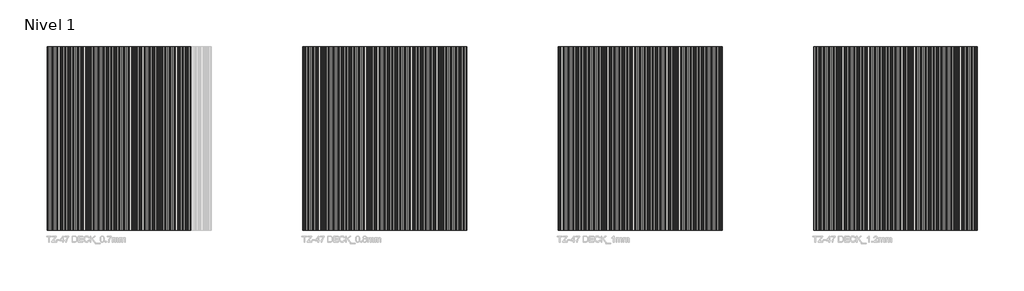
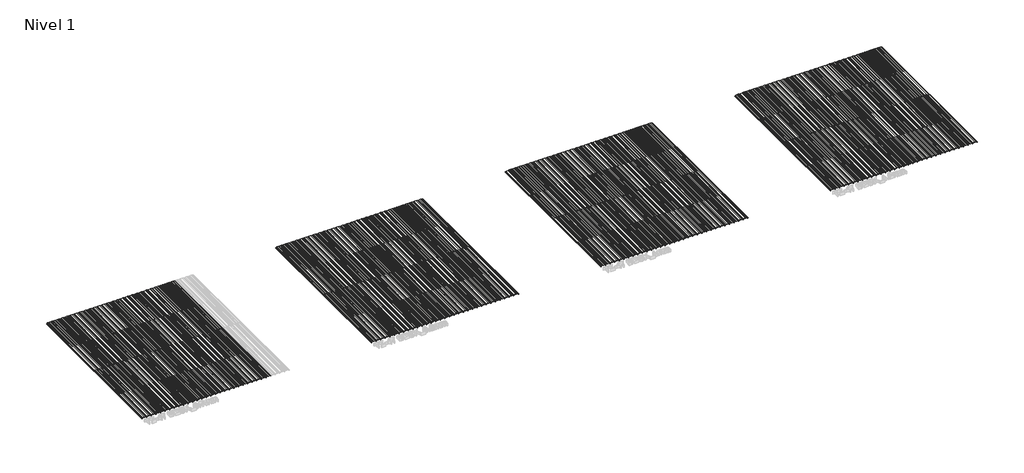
# One storey, part 1 of 4: 37 roofs.
"""IFC4 building model written with IfcOpenShell, lengths in millimetres."""

from ifc_helpers import new_model, si_unit, point, frame, frame_2d, origin, place, context, project, spatial, polyline, circle_curve, trimmed, segment, composite_curve, outline, extrude, transform, mapped, element, save
from components import panel_tz_47_deck_tz_47_deck_0_7mm_e5fd2b05, panel_tz_47_deck_tz_47_deck_1_2mm_7df1c9f2, panel_tz_47_deck_tz_47_deck_1mm_757c216b

model = new_model("IFC4")

# Units and contexts
model_context = context("Model", 3, world=origin())
ifc_project = project(units=[si_unit("LENGTHUNIT", "METRE", prefix="MILLI")], contexts=[model_context])

# Site, building, storey
site = spatial("IfcSite", under=ifc_project)
building = spatial("IfcBuilding", under=site)
storey = spatial("IfcBuildingStorey", under=building, Name="Nivel 1", Elevation=0.0)

# Roofs
placement = place(None, origin())
panel_tz_47_deck_tz_47_deck_0_7mm_shape = panel_tz_47_deck_tz_47_deck_0_7mm_e5fd2b05(model_context)
element("IfcRoof", 1, ObjectType="Panel_TZ-47 DECK : TZ-47 DECK_0.7mm", at=placement, inside=storey, context=model_context, shape_type="MappedRepresentation", body=[
    mapped(panel_tz_47_deck_tz_47_deck_0_7mm_shape, transform((-11662.6659852, -3212.7855956, 0.0), x_axis=(1.0, 0.0, 0.0), y_axis=(0.0, 0.0, -1.0), z_axis=(0.0, 1.0, 0.0))),
])
element("IfcRoof", 2, ObjectType="Panel_TZ-47 DECK : TZ-47 DECK_0.7mm", at=placement, inside=storey, context=model_context, shape_type="MappedRepresentation", body=[
    mapped(panel_tz_47_deck_tz_47_deck_0_7mm_shape, transform((-10662.6659851, -3212.7855956, 0.0), x_axis=(1.0, 0.0, 0.0), y_axis=(0.0, 0.0, -1.0), z_axis=(0.0, 1.0, 0.0))),
])
element("IfcRoof", 3, ObjectType="Panel_TZ-47 DECK : TZ-47 DECK_0.7mm", at=placement, inside=storey, context=model_context, shape_type="MappedRepresentation", body=[
    mapped(panel_tz_47_deck_tz_47_deck_0_7mm_shape, transform((-9662.6659851, -3212.7855956, 0.0), x_axis=(1.0, 0.0, 0.0), y_axis=(0.0, 0.0, -1.0), z_axis=(0.0, 1.0, 0.0))),
])
element("IfcRoof", 4, ObjectType="Panel_TZ-47 DECK : TZ-47 DECK_0.7mm", at=placement, inside=storey, context=model_context, shape_type="MappedRepresentation", body=[
    mapped(panel_tz_47_deck_tz_47_deck_0_7mm_shape, transform((-8662.6659851, -3212.7855956, 0.0), x_axis=(1.0, 0.0, 0.0), y_axis=(0.0, 0.0, -1.0), z_axis=(0.0, 1.0, 0.0))),
])
element("IfcRoof", 5, ObjectType="Panel_TZ-47 DECK : TZ-47 DECK_0.7mm", at=placement, inside=storey, context=model_context, shape_type="MappedRepresentation", body=[
    mapped(panel_tz_47_deck_tz_47_deck_0_7mm_shape, transform((-7662.6659851, -3212.7855956, 0.0), x_axis=(1.0, 0.0, 0.0), y_axis=(0.0, 0.0, -1.0), z_axis=(0.0, 1.0, 0.0))),
])
element("IfcRoof", 6, ObjectType="Panel_TZ-47 DECK : TZ-47 DECK_0.7mm", at=placement, inside=storey, context=model_context, shape_type="MappedRepresentation", body=[
    mapped(panel_tz_47_deck_tz_47_deck_0_7mm_shape, transform((-6662.6659851, -3212.7855956, 0.0), x_axis=(1.0, 0.0, 0.0), y_axis=(0.0, 0.0, -1.0), z_axis=(0.0, 1.0, 0.0))),
])
element("IfcRoof", 7, ObjectType="Panel_TZ-47 DECK : TZ-47 DECK_0.8mm", at=placement, inside=storey, context=model_context, shape_type="SweptSolid", body=[
    extrude(outline(composite_curve([segment(trimmed(circle_curve(frame_2d((44.0, -5199.9741819)), 2.5), [point((46.5, -5199.9741819))], [point((44.9953639, -5197.6808763))], True, "CARTESIAN"), True, "CONTINUOUS"), segment(polyline([(44.9953639, -5197.6808763), (19.8835868, -5186.781606)]), True, "CONTINUOUS"), segment(trimmed(circle_curve(frame_2d((21.0780235, -5184.0296393)), 3.0), [point((19.8835868, -5186.781606))], [point((18.397439, -5185.3766607))], False, "CARTESIAN"), True, "CONTINUOUS"), segment(polyline([(18.397439, -5185.3766607), (14.779315, -5178.1765618)]), True, "CONTINUOUS"), segment(trimmed(circle_curve(frame_2d((12.9922586, -5179.074576)), 2.0), [point((14.779315, -5178.1765618))], [point((13.6209063, -5177.1759444))], True, "CARTESIAN"), True, "CONTINUOUS"), segment(polyline([(13.6209063, -5177.1759444), (2.3998665, -5173.4605945)]), True, "CONTINUOUS"), segment(trimmed(circle_curve(frame_2d((3.5, -5170.1379891)), 3.5), [point((2.3998665, -5173.4605945))], [point((0.0, -5170.1379891))], False, "CARTESIAN"), True, "CONTINUOUS"), segment(polyline([(0.0, -5170.1379891), (0.0, -5155.193981)]), True, "CONTINUOUS"), segment(trimmed(circle_curve(frame_2d((3.5, -5155.193981)), 3.5), [point((0.0, -5155.193981))], [point((2.3998665, -5151.8713757))], False, "CARTESIAN"), True, "CONTINUOUS"), segment(polyline([(2.3998665, -5151.8713757), (7.5945265, -5150.1513943)]), True, "CONTINUOUS"), segment(trimmed(circle_curve(frame_2d((8.2231742, -5152.0500259)), 2.0), [point((7.5945265, -5150.1513943))], [point((9.1194865, -5150.2621153))], False, "CARTESIAN"), True, "CONTINUOUS"), segment(trimmed(circle_curve(frame_2d((9.5655913, -5149.359869)), 1.0065078), [point((9.1194865, -5150.2621153))], [point((9.8819608, -5150.3153628))], True, "CARTESIAN"), True, "CONTINUOUS"), segment(polyline([(9.8819608, -5150.3153628), (13.4343573, -5149.1391441), (13.6858163, -5149.8985968), (10.1334198, -5151.0748154)]), True, "CONTINUOUS"), segment(trimmed(circle_curve(frame_2d((9.5655913, -5149.359869)), 1.8065078), [point((10.1334198, -5151.0748154))], [point((8.7624057, -5150.9780047))], False, "CARTESIAN"), True, "CONTINUOUS"), segment(trimmed(circle_curve(frame_2d((8.2231742, -5152.0500259)), 1.2), [point((8.7624057, -5150.9780047))], [point((7.8459856, -5150.9108469))], True, "CARTESIAN"), True, "CONTINUOUS"), segment(polyline([(7.8459856, -5150.9108469), (2.6513256, -5152.6308283)]), True, "CONTINUOUS"), segment(trimmed(circle_curve(frame_2d((3.5, -5155.193981)), 2.7), [point((2.6513256, -5152.6308283))], [point((0.8, -5155.193981))], True, "CARTESIAN"), True, "CONTINUOUS"), segment(polyline([(0.8, -5155.193981), (0.8, -5170.1379891)]), True, "CONTINUOUS"), segment(trimmed(circle_curve(frame_2d((3.5, -5170.1379891)), 2.7), [point((0.8, -5170.1379891))], [point((2.6513256, -5172.7011418))], True, "CARTESIAN"), True, "CONTINUOUS"), segment(polyline([(2.6513256, -5172.7011418), (13.8723654, -5176.4164917)]), True, "CONTINUOUS"), segment(trimmed(circle_curve(frame_2d((12.9922586, -5179.074576)), 2.8), [point((13.8723654, -5176.4164917))], [point((15.4941375, -5177.8173561))], False, "CARTESIAN"), True, "CONTINUOUS"), segment(polyline([(15.4941375, -5177.8173561), (19.1122615, -5185.017455)]), True, "CONTINUOUS"), segment(trimmed(circle_curve(frame_2d((21.0780235, -5184.0296393)), 2.2), [point((19.1122615, -5185.017455))], [point((20.2021032, -5186.0477482))], True, "CARTESIAN"), True, "CONTINUOUS"), segment(polyline([(20.2021032, -5186.0477482), (45.3138804, -5196.9470185)]), True, "CONTINUOUS"), segment(trimmed(circle_curve(frame_2d((44.0, -5199.9741819)), 3.3), [point((45.3138804, -5196.9470185))], [point((47.3, -5199.9741819))], False, "CARTESIAN"), True, "CONTINUOUS"), segment(polyline([(47.3, -5199.9741819), (47.3, -5267.6956909), (43.3922323, -5287.2345296)]), True, "CONTINUOUS"), segment(trimmed(circle_curve(frame_2d((45.5495098, -5287.6659851)), 2.2), [point((43.3922323, -5287.2345296))], [point((43.3922323, -5288.0974406))], True, "CARTESIAN"), True, "CONTINUOUS"), segment(polyline([(43.3922323, -5288.0974406), (47.3, -5307.6362792), (47.3, -5375.3577882)]), True, "CONTINUOUS"), segment(trimmed(circle_curve(frame_2d((44.0, -5375.3577882)), 3.3), [point((47.3, -5375.3577882))], [point((45.3138804, -5378.3849516))], False, "CARTESIAN"), True, "CONTINUOUS"), segment(polyline([(45.3138804, -5378.3849516), (20.2021032, -5389.2842219)]), True, "CONTINUOUS"), segment(trimmed(circle_curve(frame_2d((21.0780235, -5391.3023308)), 2.2), [point((20.2021032, -5389.2842219))], [point((19.1122615, -5390.3145151))], True, "CARTESIAN"), True, "CONTINUOUS"), segment(polyline([(19.1122615, -5390.3145151), (15.4941375, -5397.5146141)]), True, "CONTINUOUS"), segment(trimmed(circle_curve(frame_2d((12.9922586, -5396.2573941)), 2.8), [point((15.4941375, -5397.5146141))], [point((13.8723654, -5398.9154784))], False, "CARTESIAN"), True, "CONTINUOUS"), segment(polyline([(13.8723654, -5398.9154784), (2.6513256, -5402.6308283)]), True, "CONTINUOUS"), segment(trimmed(circle_curve(frame_2d((3.5, -5405.193981)), 2.7), [point((2.6513256, -5402.6308283))], [point((0.8, -5405.193981))], True, "CARTESIAN"), True, "CONTINUOUS"), segment(polyline([(0.8, -5405.193981), (0.8, -5420.1379891)]), True, "CONTINUOUS"), segment(trimmed(circle_curve(frame_2d((3.5, -5420.1379891)), 2.7), [point((0.8, -5420.1379891))], [point((2.6513256, -5422.7011418))], True, "CARTESIAN"), True, "CONTINUOUS"), segment(polyline([(2.6513256, -5422.7011418), (13.8723654, -5426.4164917)]), True, "CONTINUOUS"), segment(trimmed(circle_curve(frame_2d((12.9922586, -5429.074576)), 2.8), [point((13.8723654, -5426.4164917))], [point((15.4941375, -5427.8173561))], False, "CARTESIAN"), True, "CONTINUOUS"), segment(polyline([(15.4941375, -5427.8173561), (19.1122615, -5435.017455)]), True, "CONTINUOUS"), segment(trimmed(circle_curve(frame_2d((21.0780235, -5434.0296393)), 2.2), [point((19.1122615, -5435.017455))], [point((20.2021032, -5436.0477482))], True, "CARTESIAN"), True, "CONTINUOUS"), segment(polyline([(20.2021032, -5436.0477482), (45.3138804, -5446.9470185)]), True, "CONTINUOUS"), segment(trimmed(circle_curve(frame_2d((44.0, -5449.9741819)), 3.3), [point((45.3138804, -5446.9470185))], [point((47.3, -5449.9741819))], False, "CARTESIAN"), True, "CONTINUOUS"), segment(polyline([(47.3, -5449.9741819), (47.3, -5517.6956909), (43.3922323, -5537.2345296)]), True, "CONTINUOUS"), segment(trimmed(circle_curve(frame_2d((45.5495098, -5537.6659851)), 2.2), [point((43.3922323, -5537.2345296))], [point((43.3922323, -5538.0974406))], True, "CARTESIAN"), True, "CONTINUOUS"), segment(polyline([(43.3922323, -5538.0974406), (47.3, -5557.6362792), (47.3, -5625.3577882)]), True, "CONTINUOUS"), segment(trimmed(circle_curve(frame_2d((44.0, -5625.3577882)), 3.3), [point((47.3, -5625.3577882))], [point((45.3138804, -5628.3849516))], False, "CARTESIAN"), True, "CONTINUOUS"), segment(polyline([(45.3138804, -5628.3849516), (20.2021032, -5639.2842219)]), True, "CONTINUOUS"), segment(trimmed(circle_curve(frame_2d((21.0780235, -5641.3023308)), 2.2), [point((20.2021032, -5639.2842219))], [point((19.1122615, -5640.3145151))], True, "CARTESIAN"), True, "CONTINUOUS"), segment(polyline([(19.1122615, -5640.3145151), (15.4941375, -5647.5146141)]), True, "CONTINUOUS"), segment(trimmed(circle_curve(frame_2d((12.9922586, -5646.2573941)), 2.8), [point((15.4941375, -5647.5146141))], [point((13.8723654, -5648.9154784))], False, "CARTESIAN"), True, "CONTINUOUS"), segment(polyline([(13.8723654, -5648.9154784), (2.6513256, -5652.6308283)]), True, "CONTINUOUS"), segment(trimmed(circle_curve(frame_2d((3.5, -5655.193981)), 2.7), [point((2.6513256, -5652.6308283))], [point((0.8, -5655.193981))], True, "CARTESIAN"), True, "CONTINUOUS"), segment(polyline([(0.8, -5655.193981), (0.8, -5670.1379891)]), True, "CONTINUOUS"), segment(trimmed(circle_curve(frame_2d((3.5, -5670.1379891)), 2.7), [point((0.8, -5670.1379891))], [point((2.6513256, -5672.7011418))], True, "CARTESIAN"), True, "CONTINUOUS"), segment(polyline([(2.6513256, -5672.7011418), (13.8723654, -5676.4164917)]), True, "CONTINUOUS"), segment(trimmed(circle_curve(frame_2d((12.9922586, -5679.074576)), 2.8), [point((13.8723654, -5676.4164917))], [point((15.4941375, -5677.8173561))], False, "CARTESIAN"), True, "CONTINUOUS"), segment(polyline([(15.4941375, -5677.8173561), (19.1122615, -5685.017455)]), True, "CONTINUOUS"), segment(trimmed(circle_curve(frame_2d((21.0780235, -5684.0296393)), 2.2), [point((19.1122615, -5685.017455))], [point((20.2021032, -5686.0477482))], True, "CARTESIAN"), True, "CONTINUOUS"), segment(polyline([(20.2021032, -5686.0477482), (45.3138804, -5696.9470185)]), True, "CONTINUOUS"), segment(trimmed(circle_curve(frame_2d((44.0, -5699.9741819)), 3.3), [point((45.3138804, -5696.9470185))], [point((47.3, -5699.9741819))], False, "CARTESIAN"), True, "CONTINUOUS"), segment(polyline([(47.3, -5699.9741819), (47.3, -5767.6956909), (43.3922323, -5787.2345296)]), True, "CONTINUOUS"), segment(trimmed(circle_curve(frame_2d((45.5495098, -5787.6659851)), 2.2), [point((43.3922323, -5787.2345296))], [point((43.3922323, -5788.0974406))], True, "CARTESIAN"), True, "CONTINUOUS"), segment(polyline([(43.3922323, -5788.0974406), (47.3, -5807.6362792), (47.3, -5875.3577882)]), True, "CONTINUOUS"), segment(trimmed(circle_curve(frame_2d((44.0, -5875.3577882)), 3.3), [point((47.3, -5875.3577882))], [point((45.3138804, -5878.3849516))], False, "CARTESIAN"), True, "CONTINUOUS"), segment(polyline([(45.3138804, -5878.3849516), (20.2021032, -5889.2842219)]), True, "CONTINUOUS"), segment(trimmed(circle_curve(frame_2d((21.0780235, -5891.3023308)), 2.2), [point((20.2021032, -5889.2842219))], [point((19.1122615, -5890.3145151))], True, "CARTESIAN"), True, "CONTINUOUS"), segment(polyline([(19.1122615, -5890.3145151), (15.4941375, -5897.5146141)]), True, "CONTINUOUS"), segment(trimmed(circle_curve(frame_2d((12.9922586, -5896.2573941)), 2.8), [point((15.4941375, -5897.5146141))], [point((13.8723654, -5898.9154784))], False, "CARTESIAN"), True, "CONTINUOUS"), segment(polyline([(13.8723654, -5898.9154784), (2.6513256, -5902.6308283)]), True, "CONTINUOUS"), segment(trimmed(circle_curve(frame_2d((3.5, -5905.193981)), 2.7), [point((2.6513256, -5902.6308283))], [point((0.8, -5905.193981))], True, "CARTESIAN"), True, "CONTINUOUS"), segment(polyline([(0.8, -5905.193981), (0.8, -5920.1379891)]), True, "CONTINUOUS"), segment(trimmed(circle_curve(frame_2d((3.5, -5920.1379891)), 2.7), [point((0.8, -5920.1379891))], [point((2.6513256, -5922.7011418))], True, "CARTESIAN"), True, "CONTINUOUS"), segment(polyline([(2.6513256, -5922.7011418), (13.8723654, -5926.4164917)]), True, "CONTINUOUS"), segment(trimmed(circle_curve(frame_2d((12.9922586, -5929.074576)), 2.8), [point((13.8723654, -5926.4164917))], [point((15.4941375, -5927.8173561))], False, "CARTESIAN"), True, "CONTINUOUS"), segment(polyline([(15.4941375, -5927.8173561), (19.1122615, -5935.017455)]), True, "CONTINUOUS"), segment(trimmed(circle_curve(frame_2d((21.0780235, -5934.0296393)), 2.2), [point((19.1122615, -5935.017455))], [point((20.2021032, -5936.0477482))], True, "CARTESIAN"), True, "CONTINUOUS"), segment(polyline([(20.2021032, -5936.0477482), (45.3138804, -5946.9470185)]), True, "CONTINUOUS"), segment(trimmed(circle_curve(frame_2d((44.0, -5949.9741819)), 3.3), [point((45.3138804, -5946.9470185))], [point((47.3, -5949.9741819))], False, "CARTESIAN"), True, "CONTINUOUS"), segment(polyline([(47.3, -5949.9741819), (47.3, -6017.6956909), (43.3922323, -6037.2345296)]), True, "CONTINUOUS"), segment(trimmed(circle_curve(frame_2d((45.5495098, -6037.6659851)), 2.2), [point((43.3922323, -6037.2345296))], [point((43.3922323, -6038.0974406))], True, "CARTESIAN"), True, "CONTINUOUS"), segment(polyline([(43.3922323, -6038.0974406), (47.3, -6057.6362792), (47.3, -6125.3577882)]), True, "CONTINUOUS"), segment(trimmed(circle_curve(frame_2d((44.0, -6125.3577882)), 3.3), [point((47.3, -6125.3577882))], [point((45.3138804, -6128.3849516))], False, "CARTESIAN"), True, "CONTINUOUS"), segment(polyline([(45.3138804, -6128.3849516), (20.2021032, -6139.2842219)]), True, "CONTINUOUS"), segment(trimmed(circle_curve(frame_2d((21.0780235, -6141.3023308)), 2.2), [point((20.2021032, -6139.2842219))], [point((19.1122615, -6140.3145151))], True, "CARTESIAN"), True, "CONTINUOUS"), segment(polyline([(19.1122615, -6140.3145151), (14.5899257, -6149.3140038)]), True, "CONTINUOUS"), segment(trimmed(circle_curve(frame_2d((12.0880468, -6148.0567838)), 2.8), [point((14.5899257, -6149.3140038))], [point((12.9681535, -6150.7148681))], False, "CARTESIAN"), True, "CONTINUOUS"), segment(polyline([(12.9681535, -6150.7148681), (4.1513256, -6153.6341698)]), True, "CONTINUOUS"), segment(trimmed(circle_curve(frame_2d((5.0, -6156.1973225)), 2.7), [point((4.1513256, -6153.6341698))], [point((2.3, -6156.1973225))], True, "CARTESIAN"), True, "CONTINUOUS"), segment(polyline([(2.3, -6156.1973225), (2.3, -6168.9091576)]), True, "CONTINUOUS"), segment(trimmed(circle_curve(frame_2d((4.0, -6168.9091576)), 1.7), [point((2.3, -6168.9091576))], [point((3.4656495, -6170.5229945))], True, "CARTESIAN"), True, "CONTINUOUS"), segment(polyline([(3.4656495, -6170.5229945), (5.3642811, -6171.1516422), (5.112822, -6171.9110948), (3.2141904, -6171.2824471)]), True, "CONTINUOUS"), segment(trimmed(circle_curve(frame_2d((4.0, -6168.9091576)), 2.5), [point((3.2141904, -6171.2824471))], [point((1.5, -6168.9091576))], False, "CARTESIAN"), True, "CONTINUOUS"), segment(polyline([(1.5, -6168.9091576), (1.5, -6156.1973225)]), True, "CONTINUOUS"), segment(trimmed(circle_curve(frame_2d((5.0, -6156.1973225)), 3.5), [point((1.5, -6156.1973225))], [point((3.8998665, -6152.8747171))], False, "CARTESIAN"), True, "CONTINUOUS"), segment(polyline([(3.8998665, -6152.8747171), (12.7166945, -6149.9554154)]), True, "CONTINUOUS"), segment(trimmed(circle_curve(frame_2d((12.0880468, -6148.0567838)), 2.0), [point((12.7166945, -6149.9554154))], [point((13.8751031, -6148.9547981))], True, "CARTESIAN"), True, "CONTINUOUS"), segment(polyline([(13.8751031, -6148.9547981), (18.397439, -6139.9553094)]), True, "CONTINUOUS"), segment(trimmed(circle_curve(frame_2d((21.0780235, -6141.3023308)), 3.0), [point((18.397439, -6139.9553094))], [point((19.8835868, -6138.5503641))], False, "CARTESIAN"), True, "CONTINUOUS"), segment(polyline([(19.8835868, -6138.5503641), (44.9953639, -6127.6510938)]), True, "CONTINUOUS"), segment(trimmed(circle_curve(frame_2d((44.0, -6125.3577882)), 2.5), [point((44.9953639, -6127.6510938))], [point((46.5, -6125.3577882))], True, "CARTESIAN"), True, "CONTINUOUS"), segment(polyline([(46.5, -6125.3577882), (46.5, -6057.7154948), (42.6077677, -6038.2543335)]), True, "CONTINUOUS"), segment(trimmed(circle_curve(frame_2d((45.5495098, -6037.6659851)), 3.0), [point((42.6077677, -6038.2543335))], [point((42.6077677, -6037.0776367))], False, "CARTESIAN"), True, "CONTINUOUS"), segment(polyline([(42.6077677, -6037.0776367), (46.5, -6017.6164753), (46.5, -5949.9741819)]), True, "CONTINUOUS"), segment(trimmed(circle_curve(frame_2d((44.0, -5949.9741819)), 2.5), [point((46.5, -5949.9741819))], [point((44.9953639, -5947.6808763))], True, "CARTESIAN"), True, "CONTINUOUS"), segment(polyline([(44.9953639, -5947.6808763), (19.8835868, -5936.781606)]), True, "CONTINUOUS"), segment(trimmed(circle_curve(frame_2d((21.0780235, -5934.0296393)), 3.0), [point((19.8835868, -5936.781606))], [point((18.397439, -5935.3766607))], False, "CARTESIAN"), True, "CONTINUOUS"), segment(polyline([(18.397439, -5935.3766607), (14.779315, -5928.1765618)]), True, "CONTINUOUS"), segment(trimmed(circle_curve(frame_2d((12.9922586, -5929.074576)), 2.0), [point((14.779315, -5928.1765618))], [point((13.6209063, -5927.1759444))], True, "CARTESIAN"), True, "CONTINUOUS"), segment(polyline([(13.6209063, -5927.1759444), (2.3998665, -5923.4605945)]), True, "CONTINUOUS"), segment(trimmed(circle_curve(frame_2d((3.5, -5920.1379891)), 3.5), [point((2.3998665, -5923.4605945))], [point((0.0, -5920.1379891))], False, "CARTESIAN"), True, "CONTINUOUS"), segment(polyline([(0.0, -5920.1379891), (0.0, -5905.193981)]), True, "CONTINUOUS"), segment(trimmed(circle_curve(frame_2d((3.5, -5905.193981)), 3.5), [point((0.0, -5905.193981))], [point((2.3998665, -5901.8713757))], False, "CARTESIAN"), True, "CONTINUOUS"), segment(polyline([(2.3998665, -5901.8713757), (13.6209063, -5898.1560258)]), True, "CONTINUOUS"), segment(trimmed(circle_curve(frame_2d((12.9922586, -5896.2573941)), 2.0), [point((13.6209063, -5898.1560258))], [point((14.779315, -5897.1554084))], True, "CARTESIAN"), True, "CONTINUOUS"), segment(polyline([(14.779315, -5897.1554084), (18.397439, -5889.9553094)]), True, "CONTINUOUS"), segment(trimmed(circle_curve(frame_2d((21.0780235, -5891.3023308)), 3.0), [point((18.397439, -5889.9553094))], [point((19.8835868, -5888.5503641))], False, "CARTESIAN"), True, "CONTINUOUS"), segment(polyline([(19.8835868, -5888.5503641), (44.9953639, -5877.6510938)]), True, "CONTINUOUS"), segment(trimmed(circle_curve(frame_2d((44.0, -5875.3577882)), 2.5), [point((44.9953639, -5877.6510938))], [point((46.5, -5875.3577882))], True, "CARTESIAN"), True, "CONTINUOUS"), segment(polyline([(46.5, -5875.3577882), (46.5, -5807.7154948), (42.6077677, -5788.2543335)]), True, "CONTINUOUS"), segment(trimmed(circle_curve(frame_2d((45.5495098, -5787.6659851)), 3.0), [point((42.6077677, -5788.2543335))], [point((42.6077677, -5787.0776367))], False, "CARTESIAN"), True, "CONTINUOUS"), segment(polyline([(42.6077677, -5787.0776367), (46.5, -5767.6164753), (46.5, -5699.9741819)]), True, "CONTINUOUS"), segment(trimmed(circle_curve(frame_2d((44.0, -5699.9741819)), 2.5), [point((46.5, -5699.9741819))], [point((44.9953639, -5697.6808763))], True, "CARTESIAN"), True, "CONTINUOUS"), segment(polyline([(44.9953639, -5697.6808763), (19.8835868, -5686.781606)]), True, "CONTINUOUS"), segment(trimmed(circle_curve(frame_2d((21.0780235, -5684.0296393)), 3.0), [point((19.8835868, -5686.781606))], [point((18.397439, -5685.3766607))], False, "CARTESIAN"), True, "CONTINUOUS"), segment(polyline([(18.397439, -5685.3766607), (14.779315, -5678.1765618)]), True, "CONTINUOUS"), segment(trimmed(circle_curve(frame_2d((12.9922586, -5679.074576)), 2.0), [point((14.779315, -5678.1765618))], [point((13.6209063, -5677.1759444))], True, "CARTESIAN"), True, "CONTINUOUS"), segment(polyline([(13.6209063, -5677.1759444), (2.3998665, -5673.4605945)]), True, "CONTINUOUS"), segment(trimmed(circle_curve(frame_2d((3.5, -5670.1379891)), 3.5), [point((2.3998665, -5673.4605945))], [point((0.0, -5670.1379891))], False, "CARTESIAN"), True, "CONTINUOUS"), segment(polyline([(0.0, -5670.1379891), (0.0, -5655.193981)]), True, "CONTINUOUS"), segment(trimmed(circle_curve(frame_2d((3.5, -5655.193981)), 3.5), [point((0.0, -5655.193981))], [point((2.3998665, -5651.8713757))], False, "CARTESIAN"), True, "CONTINUOUS"), segment(polyline([(2.3998665, -5651.8713757), (13.6209063, -5648.1560258)]), True, "CONTINUOUS"), segment(trimmed(circle_curve(frame_2d((12.9922586, -5646.2573941)), 2.0), [point((13.6209063, -5648.1560258))], [point((14.779315, -5647.1554084))], True, "CARTESIAN"), True, "CONTINUOUS"), segment(polyline([(14.779315, -5647.1554084), (18.397439, -5639.9553094)]), True, "CONTINUOUS"), segment(trimmed(circle_curve(frame_2d((21.0780235, -5641.3023308)), 3.0), [point((18.397439, -5639.9553094))], [point((19.8835868, -5638.5503641))], False, "CARTESIAN"), True, "CONTINUOUS"), segment(polyline([(19.8835868, -5638.5503641), (44.9953639, -5627.6510938)]), True, "CONTINUOUS"), segment(trimmed(circle_curve(frame_2d((44.0, -5625.3577882)), 2.5), [point((44.9953639, -5627.6510938))], [point((46.5, -5625.3577882))], True, "CARTESIAN"), True, "CONTINUOUS"), segment(polyline([(46.5, -5625.3577882), (46.5, -5557.7154948), (42.6077677, -5538.2543335)]), True, "CONTINUOUS"), segment(trimmed(circle_curve(frame_2d((45.5495098, -5537.6659851)), 3.0), [point((42.6077677, -5538.2543335))], [point((42.6077677, -5537.0776367))], False, "CARTESIAN"), True, "CONTINUOUS"), segment(polyline([(42.6077677, -5537.0776367), (46.5, -5517.6164753), (46.5, -5449.9741819)]), True, "CONTINUOUS"), segment(trimmed(circle_curve(frame_2d((44.0, -5449.9741819)), 2.5), [point((46.5, -5449.9741819))], [point((44.9953639, -5447.6808763))], True, "CARTESIAN"), True, "CONTINUOUS"), segment(polyline([(44.9953639, -5447.6808763), (19.8835868, -5436.781606)]), True, "CONTINUOUS"), segment(trimmed(circle_curve(frame_2d((21.0780235, -5434.0296393)), 3.0), [point((19.8835868, -5436.781606))], [point((18.397439, -5435.3766607))], False, "CARTESIAN"), True, "CONTINUOUS"), segment(polyline([(18.397439, -5435.3766607), (14.779315, -5428.1765618)]), True, "CONTINUOUS"), segment(trimmed(circle_curve(frame_2d((12.9922586, -5429.074576)), 2.0), [point((14.779315, -5428.1765618))], [point((13.6209063, -5427.1759444))], True, "CARTESIAN"), True, "CONTINUOUS"), segment(polyline([(13.6209063, -5427.1759444), (2.3998665, -5423.4605945)]), True, "CONTINUOUS"), segment(trimmed(circle_curve(frame_2d((3.5, -5420.1379891)), 3.5), [point((2.3998665, -5423.4605945))], [point((0.0, -5420.1379891))], False, "CARTESIAN"), True, "CONTINUOUS"), segment(polyline([(0.0, -5420.1379891), (0.0, -5405.193981)]), True, "CONTINUOUS"), segment(trimmed(circle_curve(frame_2d((3.5, -5405.193981)), 3.5), [point((0.0, -5405.193981))], [point((2.3998665, -5401.8713757))], False, "CARTESIAN"), True, "CONTINUOUS"), segment(polyline([(2.3998665, -5401.8713757), (13.6209063, -5398.1560258)]), True, "CONTINUOUS"), segment(trimmed(circle_curve(frame_2d((12.9922586, -5396.2573941)), 2.0), [point((13.6209063, -5398.1560258))], [point((14.779315, -5397.1554084))], True, "CARTESIAN"), True, "CONTINUOUS"), segment(polyline([(14.779315, -5397.1554084), (18.397439, -5389.9553094)]), True, "CONTINUOUS"), segment(trimmed(circle_curve(frame_2d((21.0780235, -5391.3023308)), 3.0), [point((18.397439, -5389.9553094))], [point((19.8835868, -5388.5503641))], False, "CARTESIAN"), True, "CONTINUOUS"), segment(polyline([(19.8835868, -5388.5503641), (44.9953639, -5377.6510938)]), True, "CONTINUOUS"), segment(trimmed(circle_curve(frame_2d((44.0, -5375.3577882)), 2.5), [point((44.9953639, -5377.6510938))], [point((46.5, -5375.3577882))], True, "CARTESIAN"), True, "CONTINUOUS"), segment(polyline([(46.5, -5375.3577882), (46.5, -5307.7154948), (42.6077677, -5288.2543335)]), True, "CONTINUOUS"), segment(trimmed(circle_curve(frame_2d((45.5495098, -5287.6659851)), 3.0), [point((42.6077677, -5288.2543335))], [point((42.6077677, -5287.0776367))], False, "CARTESIAN"), True, "CONTINUOUS"), segment(polyline([(42.6077677, -5287.0776367), (46.5, -5267.6164753), (46.5, -5199.9741819)]), True, "CONTINUOUS")], self_intersect=False)), frame((0.0, -3212.7855956, 0.0), z_axis=(0.0, 1.0, 0.0), x_axis=(0.0, 0.0, 1.0)), (0.0, 0.0, 1.0), 9000.0),
])
element("IfcRoof", 8, ObjectType="Panel_TZ-47 DECK : TZ-47 DECK_0.8mm", at=placement, inside=storey, context=model_context, shape_type="MappedRepresentation", body=[
    mapped(panel_tz_47_deck_tz_47_deck_0_7mm_shape, transform((-11662.6659852, -3212.7855956, 0.0), x_axis=(1.0, 0.0, 0.0), y_axis=(0.0, 0.0, -1.0), z_axis=(0.0, 1.0, 0.0))),
])
element("IfcRoof", 9, ObjectType="Panel_TZ-47 DECK : TZ-47 DECK_0.8mm", at=placement, inside=storey, context=model_context, shape_type="MappedRepresentation", body=[
    mapped(panel_tz_47_deck_tz_47_deck_0_7mm_shape, transform((-10662.6659851, -3212.7855956, 0.0), x_axis=(1.0, 0.0, 0.0), y_axis=(0.0, 0.0, -1.0), z_axis=(0.0, 1.0, 0.0))),
])
element("IfcRoof", 10, ObjectType="Panel_TZ-47 DECK : TZ-47 DECK_0.8mm", at=placement, inside=storey, context=model_context, shape_type="MappedRepresentation", body=[
    mapped(panel_tz_47_deck_tz_47_deck_0_7mm_shape, transform((-9662.6659851, -3212.7855956, 0.0), x_axis=(1.0, 0.0, 0.0), y_axis=(0.0, 0.0, -1.0), z_axis=(0.0, 1.0, 0.0))),
])
element("IfcRoof", 11, ObjectType="Panel_TZ-47 DECK : TZ-47 DECK_0.8mm", at=placement, inside=storey, context=model_context, shape_type="MappedRepresentation", body=[
    mapped(panel_tz_47_deck_tz_47_deck_0_7mm_shape, transform((-8662.6659851, -3212.7855956, 0.0), x_axis=(1.0, 0.0, 0.0), y_axis=(0.0, 0.0, -1.0), z_axis=(0.0, 1.0, 0.0))),
])
element("IfcRoof", 12, ObjectType="Panel_TZ-47 DECK : TZ-47 DECK_0.8mm", at=placement, inside=storey, context=model_context, shape_type="MappedRepresentation", body=[
    mapped(panel_tz_47_deck_tz_47_deck_0_7mm_shape, transform((-7662.6659851, -3212.7855956, 0.0), x_axis=(1.0, 0.0, 0.0), y_axis=(0.0, 0.0, -1.0), z_axis=(0.0, 1.0, 0.0))),
])
element("IfcRoof", 13, ObjectType="Panel_TZ-47 DECK : TZ-47 DECK_0.8mm", at=placement, inside=storey, context=model_context, shape_type="MappedRepresentation", body=[
    mapped(panel_tz_47_deck_tz_47_deck_0_7mm_shape, transform((-6662.6659851, -3212.7855956, 0.0), x_axis=(1.0, 0.0, 0.0), y_axis=(0.0, 0.0, -1.0), z_axis=(0.0, 1.0, 0.0))),
])
element("IfcRoof", 14, ObjectType="Panel_TZ-47 DECK : TZ-47 DECK_0.8mm", at=placement, inside=storey, context=model_context, shape_type="MappedRepresentation", body=[
    mapped(panel_tz_47_deck_tz_47_deck_0_7mm_shape, transform((837.3340148, -3212.7855956, 0.0), x_axis=(1.0, 0.0, 0.0), y_axis=(0.0, 0.0, -1.0), z_axis=(0.0, 1.0, 0.0))),
])
element("IfcRoof", 15, ObjectType="Panel_TZ-47 DECK : TZ-47 DECK_0.8mm", at=placement, inside=storey, context=model_context, shape_type="MappedRepresentation", body=[
    mapped(panel_tz_47_deck_tz_47_deck_0_7mm_shape, transform((1837.3340149, -3212.7855956, 0.0), x_axis=(1.0, 0.0, 0.0), y_axis=(0.0, 0.0, -1.0), z_axis=(0.0, 1.0, 0.0))),
])
element("IfcRoof", 16, ObjectType="Panel_TZ-47 DECK : TZ-47 DECK_0.8mm", at=placement, inside=storey, context=model_context, shape_type="MappedRepresentation", body=[
    mapped(panel_tz_47_deck_tz_47_deck_0_7mm_shape, transform((2837.3340149, -3212.7855956, 0.0), x_axis=(1.0, 0.0, 0.0), y_axis=(0.0, 0.0, -1.0), z_axis=(0.0, 1.0, 0.0))),
])
element("IfcRoof", 17, ObjectType="Panel_TZ-47 DECK : TZ-47 DECK_0.8mm", at=placement, inside=storey, context=model_context, shape_type="MappedRepresentation", body=[
    mapped(panel_tz_47_deck_tz_47_deck_0_7mm_shape, transform((3837.3340149, -3212.7855956, 0.0), x_axis=(1.0, 0.0, 0.0), y_axis=(0.0, 0.0, -1.0), z_axis=(0.0, 1.0, 0.0))),
])
element("IfcRoof", 18, ObjectType="Panel_TZ-47 DECK : TZ-47 DECK_0.8mm", at=placement, inside=storey, context=model_context, shape_type="MappedRepresentation", body=[
    mapped(panel_tz_47_deck_tz_47_deck_0_7mm_shape, transform((4837.3340149, -3212.7855956, 0.0), x_axis=(1.0, 0.0, 0.0), y_axis=(0.0, 0.0, -1.0), z_axis=(0.0, 1.0, 0.0))),
])
element("IfcRoof", 19, ObjectType="Panel_TZ-47 DECK : TZ-47 DECK_0.8mm", at=placement, inside=storey, context=model_context, shape_type="MappedRepresentation", body=[
    mapped(panel_tz_47_deck_tz_47_deck_0_7mm_shape, transform((5837.3340149, -3212.7855956, 0.0), x_axis=(1.0, 0.0, 0.0), y_axis=(0.0, 0.0, -1.0), z_axis=(0.0, 1.0, 0.0))),
])
element("IfcRoof", 20, ObjectType="Panel_TZ-47 DECK : TZ-47 DECK_0.8mm", at=placement, inside=storey, context=model_context, shape_type="MappedRepresentation", body=[
    mapped(panel_tz_47_deck_tz_47_deck_0_7mm_shape, transform((6837.3340149, -3212.7855956, 0.0), x_axis=(1.0, 0.0, 0.0), y_axis=(0.0, 0.0, -1.0), z_axis=(0.0, 1.0, 0.0))),
])
element("IfcRoof", 21, ObjectType="Panel_TZ-47 DECK : TZ-47 DECK_0.8mm", at=placement, inside=storey, context=model_context, shape_type="MappedRepresentation", body=[
    mapped(panel_tz_47_deck_tz_47_deck_0_7mm_shape, transform((7837.3340148, -3212.7855956, 0.0), x_axis=(1.0, 0.0, 0.0), y_axis=(0.0, 0.0, -1.0), z_axis=(0.0, 1.0, 0.0))),
])
panel_tz_47_deck_tz_47_deck_1_2mm_shape = panel_tz_47_deck_tz_47_deck_1_2mm_7df1c9f2(model_context)
element("IfcRoof", 22, ObjectType="Panel_TZ-47 DECK : TZ-47 DECK_1.2mm", at=placement, inside=storey, context=model_context, shape_type="MappedRepresentation", body=[
    mapped(panel_tz_47_deck_tz_47_deck_1_2mm_shape, transform((25837.3340148, -3212.7855956, 0.0), x_axis=(1.0, 0.0, 0.0), y_axis=(0.0, 0.0, -1.0), z_axis=(0.0, 1.0, 0.0))),
])
element("IfcRoof", 23, ObjectType="Panel_TZ-47 DECK : TZ-47 DECK_1.2mm", at=placement, inside=storey, context=model_context, shape_type="MappedRepresentation", body=[
    mapped(panel_tz_47_deck_tz_47_deck_1_2mm_shape, transform((26837.3340149, -3212.7855956, 0.0), x_axis=(1.0, 0.0, 0.0), y_axis=(0.0, 0.0, -1.0), z_axis=(0.0, 1.0, 0.0))),
])
element("IfcRoof", 24, ObjectType="Panel_TZ-47 DECK : TZ-47 DECK_1.2mm", at=placement, inside=storey, context=model_context, shape_type="MappedRepresentation", body=[
    mapped(panel_tz_47_deck_tz_47_deck_1_2mm_shape, transform((27837.3340149, -3212.7855956, 0.0), x_axis=(1.0, 0.0, 0.0), y_axis=(0.0, 0.0, -1.0), z_axis=(0.0, 1.0, 0.0))),
])
element("IfcRoof", 25, ObjectType="Panel_TZ-47 DECK : TZ-47 DECK_1.2mm", at=placement, inside=storey, context=model_context, shape_type="MappedRepresentation", body=[
    mapped(panel_tz_47_deck_tz_47_deck_1_2mm_shape, transform((28837.3340149, -3212.7855956, 0.0), x_axis=(1.0, 0.0, 0.0), y_axis=(0.0, 0.0, -1.0), z_axis=(0.0, 1.0, 0.0))),
])
element("IfcRoof", 26, ObjectType="Panel_TZ-47 DECK : TZ-47 DECK_1.2mm", at=placement, inside=storey, context=model_context, shape_type="MappedRepresentation", body=[
    mapped(panel_tz_47_deck_tz_47_deck_1_2mm_shape, transform((29837.3340149, -3212.7855956, 0.0), x_axis=(1.0, 0.0, 0.0), y_axis=(0.0, 0.0, -1.0), z_axis=(0.0, 1.0, 0.0))),
])
element("IfcRoof", 27, ObjectType="Panel_TZ-47 DECK : TZ-47 DECK_1.2mm", at=placement, inside=storey, context=model_context, shape_type="MappedRepresentation", body=[
    mapped(panel_tz_47_deck_tz_47_deck_1_2mm_shape, transform((30837.3340149, -3212.7855956, 0.0), x_axis=(1.0, 0.0, 0.0), y_axis=(0.0, 0.0, -1.0), z_axis=(0.0, 1.0, 0.0))),
])
element("IfcRoof", 28, ObjectType="Panel_TZ-47 DECK : TZ-47 DECK_1.2mm", at=placement, inside=storey, context=model_context, shape_type="MappedRepresentation", body=[
    mapped(panel_tz_47_deck_tz_47_deck_1_2mm_shape, transform((31837.3340149, -3212.7855956, 0.0), x_axis=(1.0, 0.0, 0.0), y_axis=(0.0, 0.0, -1.0), z_axis=(0.0, 1.0, 0.0))),
])
element("IfcRoof", 29, ObjectType="Panel_TZ-47 DECK : TZ-47 DECK_1.2mm", at=placement, inside=storey, context=model_context, shape_type="MappedRepresentation", body=[
    mapped(panel_tz_47_deck_tz_47_deck_1_2mm_shape, transform((32837.3340148, -3212.7855956, 0.0), x_axis=(1.0, 0.0, 0.0), y_axis=(0.0, 0.0, -1.0), z_axis=(0.0, 1.0, 0.0))),
])
panel_tz_47_deck_tz_47_deck_1mm_shape = panel_tz_47_deck_tz_47_deck_1mm_757c216b(model_context)
element("IfcRoof", 30, ObjectType="Panel_TZ-47 DECK : TZ-47 DECK_1mm", at=placement, inside=storey, context=model_context, shape_type="MappedRepresentation", body=[
    mapped(panel_tz_47_deck_tz_47_deck_1mm_shape, transform((13337.3340148, -3212.7855956, 0.0), x_axis=(1.0, 0.0, 0.0), y_axis=(0.0, 0.0, -1.0), z_axis=(0.0, 1.0, 0.0))),
])
element("IfcRoof", 31, ObjectType="Panel_TZ-47 DECK : TZ-47 DECK_1mm", at=placement, inside=storey, context=model_context, shape_type="MappedRepresentation", body=[
    mapped(panel_tz_47_deck_tz_47_deck_1mm_shape, transform((14337.3340149, -3212.7855956, 0.0), x_axis=(1.0, 0.0, 0.0), y_axis=(0.0, 0.0, -1.0), z_axis=(0.0, 1.0, 0.0))),
])
element("IfcRoof", 32, ObjectType="Panel_TZ-47 DECK : TZ-47 DECK_1mm", at=placement, inside=storey, context=model_context, shape_type="MappedRepresentation", body=[
    mapped(panel_tz_47_deck_tz_47_deck_1mm_shape, transform((15337.3340149, -3212.7855956, 0.0), x_axis=(1.0, 0.0, 0.0), y_axis=(0.0, 0.0, -1.0), z_axis=(0.0, 1.0, 0.0))),
])
element("IfcRoof", 33, ObjectType="Panel_TZ-47 DECK : TZ-47 DECK_1mm", at=placement, inside=storey, context=model_context, shape_type="MappedRepresentation", body=[
    mapped(panel_tz_47_deck_tz_47_deck_1mm_shape, transform((16337.3340149, -3212.7855956, 0.0), x_axis=(1.0, 0.0, 0.0), y_axis=(0.0, 0.0, -1.0), z_axis=(0.0, 1.0, 0.0))),
])
element("IfcRoof", 34, ObjectType="Panel_TZ-47 DECK : TZ-47 DECK_1mm", at=placement, inside=storey, context=model_context, shape_type="MappedRepresentation", body=[
    mapped(panel_tz_47_deck_tz_47_deck_1mm_shape, transform((17337.3340149, -3212.7855956, 0.0), x_axis=(1.0, 0.0, 0.0), y_axis=(0.0, 0.0, -1.0), z_axis=(0.0, 1.0, 0.0))),
])
element("IfcRoof", 35, ObjectType="Panel_TZ-47 DECK : TZ-47 DECK_1mm", at=placement, inside=storey, context=model_context, shape_type="MappedRepresentation", body=[
    mapped(panel_tz_47_deck_tz_47_deck_1mm_shape, transform((18337.3340149, -3212.7855956, 0.0), x_axis=(1.0, 0.0, 0.0), y_axis=(0.0, 0.0, -1.0), z_axis=(0.0, 1.0, 0.0))),
])
element("IfcRoof", 36, ObjectType="Panel_TZ-47 DECK : TZ-47 DECK_1mm", at=placement, inside=storey, context=model_context, shape_type="MappedRepresentation", body=[
    mapped(panel_tz_47_deck_tz_47_deck_1mm_shape, transform((19337.3340149, -3212.7855956, 0.0), x_axis=(1.0, 0.0, 0.0), y_axis=(0.0, 0.0, -1.0), z_axis=(0.0, 1.0, 0.0))),
])
element("IfcRoof", 37, ObjectType="Panel_TZ-47 DECK : TZ-47 DECK_1mm", at=placement, inside=storey, context=model_context, shape_type="MappedRepresentation", body=[
    mapped(panel_tz_47_deck_tz_47_deck_1mm_shape, transform((20337.3340148, -3212.7855956, 0.0), x_axis=(1.0, 0.0, 0.0), y_axis=(0.0, 0.0, -1.0), z_axis=(0.0, 1.0, 0.0))),
])

save(model, "model.ifc")
